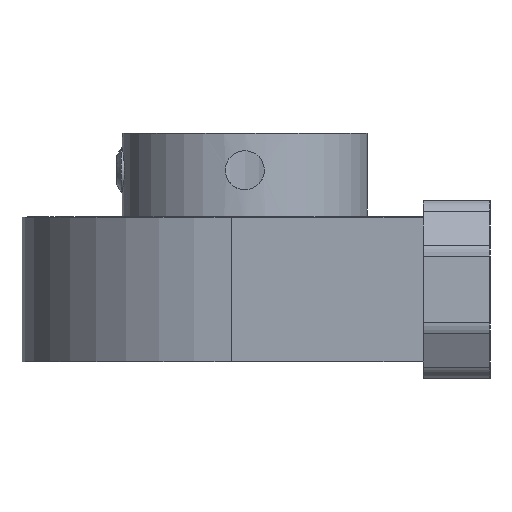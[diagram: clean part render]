
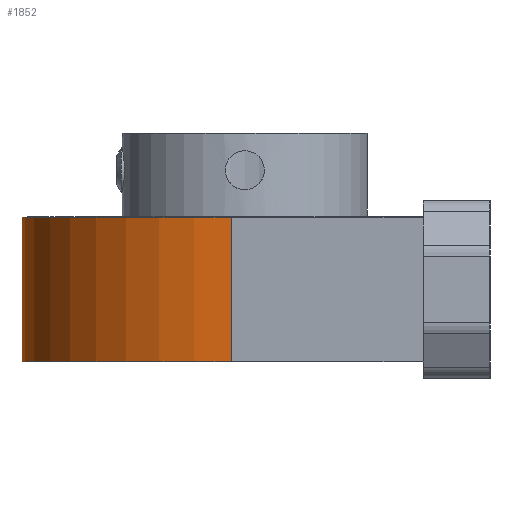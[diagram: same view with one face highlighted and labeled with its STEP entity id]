
A CAD part, left-side view. The second image highlights one B-rep face of the part: STEP entity #1852.
In plain terms, the highlighted cylindrical face has radius 20 mm (diameter 40 mm), a partial arc.
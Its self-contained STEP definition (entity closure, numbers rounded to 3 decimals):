
#1412=CARTESIAN_POINT('',(-19.964,1.203,-6.5));
#1413=VERTEX_POINT('',#1412);
#1420=CARTESIAN_POINT('',(19.964,1.203,-6.5));
#1421=VERTEX_POINT('',#1420);
#1422=CARTESIAN_POINT('',(0.0,0.0,-6.5));
#1423=DIRECTION('',(0.0,0.0,1.0));
#1424=DIRECTION('',(0.998,0.06,0.0));
#1425=AXIS2_PLACEMENT_3D('',#1422,#1423,#1424);
#1426=CIRCLE('',#1425,20.0);
#1427=EDGE_CURVE('',#1421,#1413,#1426,.T.);
#1748=CARTESIAN_POINT('',(19.964,1.203,6.5));
#1749=VERTEX_POINT('',#1748);
#1756=CARTESIAN_POINT('',(-19.964,1.203,6.5));
#1757=VERTEX_POINT('',#1756);
#1758=CARTESIAN_POINT('',(0.0,0.0,6.5));
#1759=DIRECTION('',(0.0,0.0,-1.0));
#1760=DIRECTION('',(0.998,0.06,0.0));
#1761=AXIS2_PLACEMENT_3D('',#1758,#1759,#1760);
#1762=CIRCLE('',#1761,20.0);
#1763=EDGE_CURVE('',#1757,#1749,#1762,.T.);
#1814=CARTESIAN_POINT('',(19.964,1.203,-6.5));
#1815=DIRECTION('',(0.0,0.0,1.0));
#1816=VECTOR('',#1815,13.0);
#1817=LINE('',#1814,#1816);
#1818=EDGE_CURVE('',#1421,#1749,#1817,.T.);
#1831=CARTESIAN_POINT('',(-19.964,1.203,-6.5));
#1832=DIRECTION('',(0.0,0.0,1.0));
#1833=VECTOR('',#1832,13.0);
#1834=LINE('',#1831,#1833);
#1835=EDGE_CURVE('',#1413,#1757,#1834,.T.);
#1841=CARTESIAN_POINT('',(0.0,0.0,0.0));
#1842=DIRECTION('',(0.0,0.0,1.0));
#1843=DIRECTION('',(0.998,0.06,0.0));
#1844=AXIS2_PLACEMENT_3D('',#1841,#1842,#1843);
#1845=CYLINDRICAL_SURFACE('',#1844,20.);
#1846=ORIENTED_EDGE('',*,*,#1763,.T.);
#1847=ORIENTED_EDGE('',*,*,#1818,.F.);
#1848=ORIENTED_EDGE('',*,*,#1427,.T.);
#1849=ORIENTED_EDGE('',*,*,#1835,.T.);
#1850=EDGE_LOOP('',(#1846,#1847,#1848,#1849));
#1851=FACE_OUTER_BOUND('',#1850,.T.);
#1852=ADVANCED_FACE('',(#1851),#1845,.T.);
